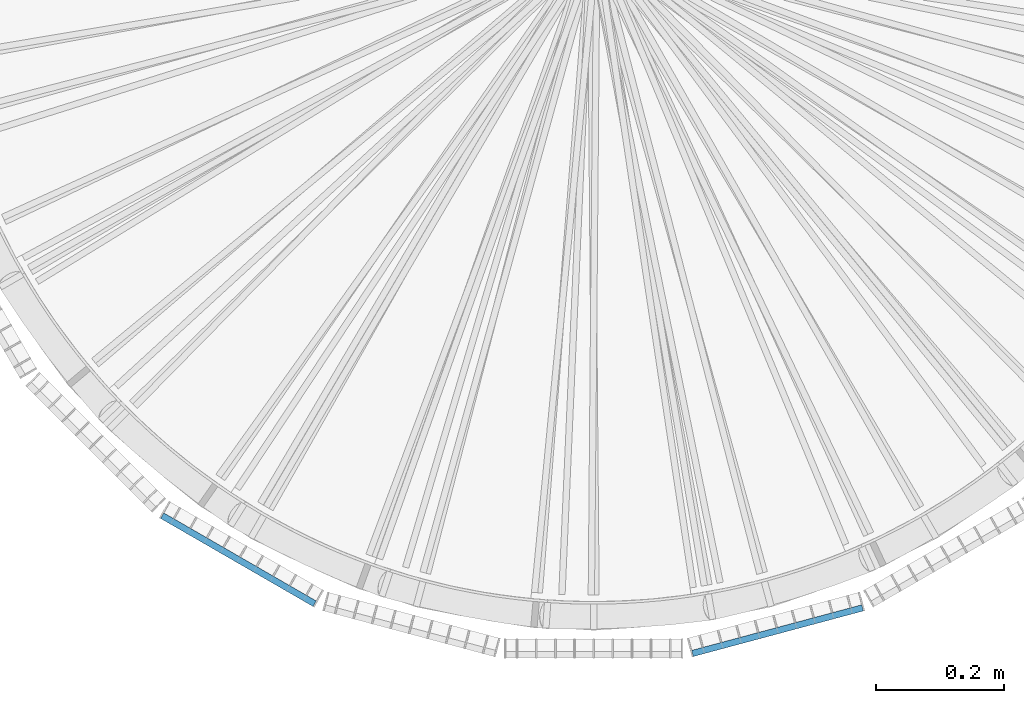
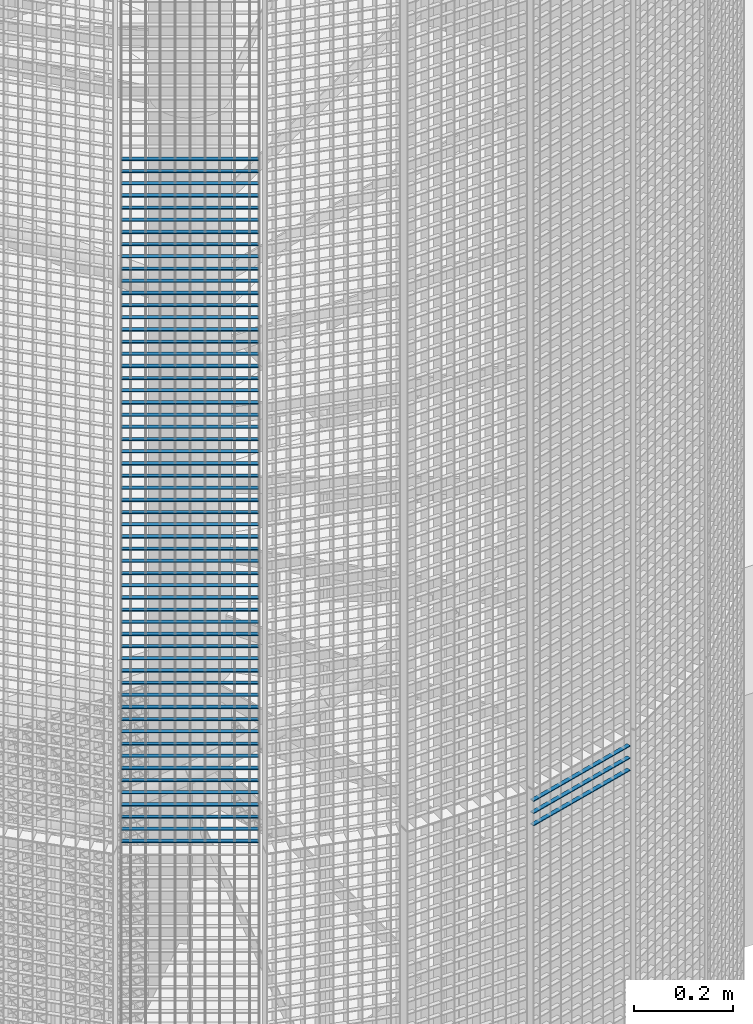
# One storey, part 152 of 1148: 60 beams, 2 elements without a shape of their own.
"""IFC2X3 building model written with IfcOpenShell, lengths in millimetres."""

from ifc_helpers import new_model, si_unit, frame, origin_with_axes, origin_2d_with_axis, place, context, subcontext, project, spatial, rectangle, extrude, material, type_object, element, aggregate, save


model = new_model("IFC2X3")

# Units and contexts
model_context = context("Model", 3, precision=1e-05, world=origin_with_axes())
body_context = subcontext(model_context, "Body", "Model", "MODEL_VIEW")
ifc_project = project(units=[si_unit("LENGTHUNIT", "METRE", prefix="MILLI"), si_unit("AREAUNIT", "SQUARE_METRE"), si_unit("VOLUMEUNIT", "CUBIC_METRE"), si_unit("MASSUNIT", "GRAM", prefix="KILO"), si_unit("TIMEUNIT", "SECOND"), si_unit("PLANEANGLEUNIT", "RADIAN"), si_unit("SOLIDANGLEUNIT", "STERADIAN"), si_unit("THERMODYNAMICTEMPERATUREUNIT", "DEGREE_CELSIUS"), si_unit("LUMINOUSINTENSITYUNIT", "LUMEN")], contexts=[model_context])

# Site, building, storey
site_placement = place(None, origin_with_axes())
site = spatial("IfcSite", under=ifc_project, at=site_placement, Name="Undefined", CompositionType="ELEMENT")
building_placement = place(site_placement, origin_with_axes())
building = spatial("IfcBuilding", under=site, at=building_placement, Name="Undefined", CompositionType="ELEMENT")
storey_placement = place(building_placement, origin_with_axes())
storey = spatial("IfcBuildingStorey", under=building, at=storey_placement, Name="Undefined", CompositionType="ELEMENT", Elevation=0.0)

# Assembly, beams
assembly_1_placement = place(storey_placement, origin_with_axes())
assembly_1 = element("IfcElementAssembly", 1, at=assembly_1_placement, inside=storey, Name="BORDURE", AssemblyPlace="NOTDEFINED", PredefinedType="NOTDEFINED")
ifc_material = material(Name="STEEL/S235JR")
beam_type = type_object("IfcBeamType", Name="PL2*10", PredefinedType="NOTDEFINED")
beam_1_placement = place(assembly_1_placement, frame((-676.248044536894, -895.303964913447, 10710.0), z_axis=(-0.49999999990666, -0.866025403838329, 0.0), x_axis=(0.866025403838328, -0.49999999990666, 0.0)))
beam_1 = element("IfcBeam", 2, at=beam_1_placement, type_object=beam_type, material=ifc_material, Name="ENTRETOISE", context=body_context, shape_type="SweptSolid", body=[
    extrude(rectangle(XDim=2.0, YDim=10.0, at=origin_2d_with_axis()), frame((275.999999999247, 9.09494701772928e-13, 1.53210777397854e-14), z_axis=(-1.0, 0.0, 0.0), x_axis=(0.0, -1.0, 0.0)), (0.0, 0.0, 1.0), 276.0),
])
beam_2_placement = place(assembly_1_placement, frame((-676.248044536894, -895.303964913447, 10680.0), z_axis=(-0.49999999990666, -0.866025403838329, 0.0), x_axis=(0.866025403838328, -0.49999999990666, 0.0)))
beam_2 = element("IfcBeam", 3, at=beam_2_placement, type_object=beam_type, material=ifc_material, Name="ENTRETOISE", context=body_context, shape_type="SweptSolid", body=[
    extrude(rectangle(XDim=2.0, YDim=10.0, at=origin_2d_with_axis()), frame((275.999999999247, 9.09494701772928e-13, 1.53210777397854e-14), z_axis=(-1.0, 0.0, 0.0), x_axis=(0.0, -1.0, 0.0)), (0.0, 0.0, 1.0), 276.0),
])
beam_3_placement = place(assembly_1_placement, frame((-676.248044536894, -895.303964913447, 10650.0), z_axis=(-0.49999999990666, -0.866025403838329, 0.0), x_axis=(0.866025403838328, -0.49999999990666, 0.0)))
beam_3 = element("IfcBeam", 4, at=beam_3_placement, type_object=beam_type, material=ifc_material, Name="ENTRETOISE", context=body_context, shape_type="SweptSolid", body=[
    extrude(rectangle(XDim=2.0, YDim=10.0, at=origin_2d_with_axis()), frame((275.999999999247, 9.09494701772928e-13, 1.53210777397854e-14), z_axis=(-1.0, 0.0, 0.0), x_axis=(0.0, -1.0, 0.0)), (0.0, 0.0, 1.0), 276.0),
])
beam_4_placement = place(assembly_1_placement, frame((-676.248044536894, -895.303964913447, 10620.0), z_axis=(-0.49999999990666, -0.866025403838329, 0.0), x_axis=(0.866025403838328, -0.49999999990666, 0.0)))
beam_4 = element("IfcBeam", 5, at=beam_4_placement, type_object=beam_type, material=ifc_material, Name="ENTRETOISE", context=body_context, shape_type="SweptSolid", body=[
    extrude(rectangle(XDim=2.0, YDim=10.0, at=origin_2d_with_axis()), frame((275.999999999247, 9.09494701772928e-13, 1.53210777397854e-14), z_axis=(-1.0, 0.0, 0.0), x_axis=(0.0, -1.0, 0.0)), (0.0, 0.0, 1.0), 276.0),
])
beam_5_placement = place(assembly_1_placement, frame((-676.248044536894, -895.303964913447, 10590.0), z_axis=(-0.49999999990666, -0.866025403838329, 0.0), x_axis=(0.866025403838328, -0.49999999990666, 0.0)))
beam_5 = element("IfcBeam", 6, at=beam_5_placement, type_object=beam_type, material=ifc_material, Name="ENTRETOISE", context=body_context, shape_type="SweptSolid", body=[
    extrude(rectangle(XDim=2.0, YDim=10.0, at=origin_2d_with_axis()), frame((275.999999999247, 9.09494701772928e-13, 1.53210777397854e-14), z_axis=(-1.0, 0.0, 0.0), x_axis=(0.0, -1.0, 0.0)), (0.0, 0.0, 1.0), 276.0),
])
beam_6_placement = place(assembly_1_placement, frame((-676.248044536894, -895.303964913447, 10560.0), z_axis=(-0.49999999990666, -0.866025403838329, 0.0), x_axis=(0.866025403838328, -0.49999999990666, 0.0)))
beam_6 = element("IfcBeam", 7, at=beam_6_placement, type_object=beam_type, material=ifc_material, Name="ENTRETOISE", context=body_context, shape_type="SweptSolid", body=[
    extrude(rectangle(XDim=2.0, YDim=10.0, at=origin_2d_with_axis()), frame((275.999999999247, 9.09494701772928e-13, 1.53210777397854e-14), z_axis=(-1.0, 0.0, 0.0), x_axis=(0.0, -1.0, 0.0)), (0.0, 0.0, 1.0), 276.0),
])
beam_7_placement = place(assembly_1_placement, frame((-676.248044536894, -895.303964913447, 10530.0), z_axis=(-0.49999999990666, -0.866025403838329, 0.0), x_axis=(0.866025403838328, -0.49999999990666, 0.0)))
beam_7 = element("IfcBeam", 8, at=beam_7_placement, type_object=beam_type, material=ifc_material, Name="ENTRETOISE", context=body_context, shape_type="SweptSolid", body=[
    extrude(rectangle(XDim=2.0, YDim=10.0, at=origin_2d_with_axis()), frame((275.999999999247, 9.09494701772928e-13, 1.53210777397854e-14), z_axis=(-1.0, 0.0, 0.0), x_axis=(0.0, -1.0, 0.0)), (0.0, 0.0, 1.0), 276.0),
])
beam_8_placement = place(assembly_1_placement, frame((-676.248044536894, -895.303964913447, 10500.0), z_axis=(-0.49999999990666, -0.866025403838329, 0.0), x_axis=(0.866025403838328, -0.49999999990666, 0.0)))
beam_8 = element("IfcBeam", 9, at=beam_8_placement, type_object=beam_type, material=ifc_material, Name="ENTRETOISE", context=body_context, shape_type="SweptSolid", body=[
    extrude(rectangle(XDim=2.0, YDim=10.0, at=origin_2d_with_axis()), frame((275.999999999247, 9.09494701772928e-13, 1.53210777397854e-14), z_axis=(-1.0, 0.0, 0.0), x_axis=(0.0, -1.0, 0.0)), (0.0, 0.0, 1.0), 276.0),
])
beam_9_placement = place(assembly_1_placement, frame((-676.248044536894, -895.303964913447, 10470.0), z_axis=(-0.49999999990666, -0.866025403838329, 0.0), x_axis=(0.866025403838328, -0.49999999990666, 0.0)))
beam_9 = element("IfcBeam", 10, at=beam_9_placement, type_object=beam_type, material=ifc_material, Name="ENTRETOISE", context=body_context, shape_type="SweptSolid", body=[
    extrude(rectangle(XDim=2.0, YDim=10.0, at=origin_2d_with_axis()), frame((275.999999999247, 9.09494701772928e-13, 1.53210777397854e-14), z_axis=(-1.0, 0.0, 0.0), x_axis=(0.0, -1.0, 0.0)), (0.0, 0.0, 1.0), 276.0),
])
beam_10_placement = place(assembly_1_placement, frame((-676.248044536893, -895.303964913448, 10440.0), z_axis=(-0.49999999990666, -0.866025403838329, 0.0), x_axis=(0.866025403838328, -0.49999999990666, 0.0)))
beam_10 = element("IfcBeam", 11, at=beam_10_placement, type_object=beam_type, material=ifc_material, Name="ENTRETOISE", context=body_context, shape_type="SweptSolid", body=[
    extrude(rectangle(XDim=2.0, YDim=10.0, at=origin_2d_with_axis()), frame((275.999999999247, 9.09494701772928e-13, 1.53210777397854e-14), z_axis=(-1.0, 0.0, 0.0), x_axis=(0.0, -1.0, 0.0)), (0.0, 0.0, 1.0), 276.0),
])
beam_11_placement = place(assembly_1_placement, frame((-676.248044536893, -895.303964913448, 10410.0), z_axis=(-0.49999999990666, -0.866025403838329, 0.0), x_axis=(0.866025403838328, -0.49999999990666, 0.0)))
beam_11 = element("IfcBeam", 12, at=beam_11_placement, type_object=beam_type, material=ifc_material, Name="ENTRETOISE", context=body_context, shape_type="SweptSolid", body=[
    extrude(rectangle(XDim=2.0, YDim=10.0, at=origin_2d_with_axis()), frame((275.999999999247, 9.09494701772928e-13, 1.53210777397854e-14), z_axis=(-1.0, 0.0, 0.0), x_axis=(0.0, -1.0, 0.0)), (0.0, 0.0, 1.0), 276.0),
])
beam_12_placement = place(assembly_1_placement, frame((-676.248044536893, -895.303964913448, 10380.0), z_axis=(-0.49999999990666, -0.866025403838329, 0.0), x_axis=(0.866025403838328, -0.49999999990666, 0.0)))
beam_12 = element("IfcBeam", 13, at=beam_12_placement, type_object=beam_type, material=ifc_material, Name="ENTRETOISE", context=body_context, shape_type="SweptSolid", body=[
    extrude(rectangle(XDim=2.0, YDim=10.0, at=origin_2d_with_axis()), frame((275.999999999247, 9.09494701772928e-13, 1.53210777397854e-14), z_axis=(-1.0, 0.0, 0.0), x_axis=(0.0, -1.0, 0.0)), (0.0, 0.0, 1.0), 276.0),
])
beam_13_placement = place(assembly_1_placement, frame((-676.248044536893, -895.303964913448, 10350.0), z_axis=(-0.49999999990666, -0.866025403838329, 0.0), x_axis=(0.866025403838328, -0.49999999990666, 0.0)))
beam_13 = element("IfcBeam", 14, at=beam_13_placement, type_object=beam_type, material=ifc_material, Name="ENTRETOISE", context=body_context, shape_type="SweptSolid", body=[
    extrude(rectangle(XDim=2.0, YDim=10.0, at=origin_2d_with_axis()), frame((275.999999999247, 9.09494701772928e-13, 1.53210777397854e-14), z_axis=(-1.0, 0.0, 0.0), x_axis=(0.0, -1.0, 0.0)), (0.0, 0.0, 1.0), 276.0),
])
beam_14_placement = place(assembly_1_placement, frame((-676.248044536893, -895.303964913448, 10320.0), z_axis=(-0.49999999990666, -0.866025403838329, 0.0), x_axis=(0.866025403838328, -0.49999999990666, 0.0)))
beam_14 = element("IfcBeam", 15, at=beam_14_placement, type_object=beam_type, material=ifc_material, Name="ENTRETOISE", context=body_context, shape_type="SweptSolid", body=[
    extrude(rectangle(XDim=2.0, YDim=10.0, at=origin_2d_with_axis()), frame((275.999999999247, 9.09494701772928e-13, 1.53210777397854e-14), z_axis=(-1.0, 0.0, 0.0), x_axis=(0.0, -1.0, 0.0)), (0.0, 0.0, 1.0), 276.0),
])
beam_15_placement = place(assembly_1_placement, frame((-676.248044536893, -895.303964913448, 10290.0), z_axis=(-0.49999999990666, -0.866025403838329, 0.0), x_axis=(0.866025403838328, -0.49999999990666, 0.0)))
beam_15 = element("IfcBeam", 16, at=beam_15_placement, type_object=beam_type, material=ifc_material, Name="ENTRETOISE", context=body_context, shape_type="SweptSolid", body=[
    extrude(rectangle(XDim=2.0, YDim=10.0, at=origin_2d_with_axis()), frame((275.999999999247, 9.09494701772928e-13, 1.53210777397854e-14), z_axis=(-1.0, 0.0, 0.0), x_axis=(0.0, -1.0, 0.0)), (0.0, 0.0, 1.0), 276.0),
])
beam_16_placement = place(assembly_1_placement, frame((-676.248044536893, -895.303964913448, 10260.0), z_axis=(-0.49999999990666, -0.866025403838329, 0.0), x_axis=(0.866025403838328, -0.49999999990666, 0.0)))
beam_16 = element("IfcBeam", 17, at=beam_16_placement, type_object=beam_type, material=ifc_material, Name="ENTRETOISE", context=body_context, shape_type="SweptSolid", body=[
    extrude(rectangle(XDim=2.0, YDim=10.0, at=origin_2d_with_axis()), frame((275.999999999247, 9.09494701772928e-13, 1.53210777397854e-14), z_axis=(-1.0, 0.0, 0.0), x_axis=(0.0, -1.0, 0.0)), (0.0, 0.0, 1.0), 276.0),
])
beam_17_placement = place(assembly_1_placement, frame((-676.248044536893, -895.303964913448, 10230.0), z_axis=(-0.49999999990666, -0.866025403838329, 0.0), x_axis=(0.866025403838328, -0.49999999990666, 0.0)))
beam_17 = element("IfcBeam", 18, at=beam_17_placement, type_object=beam_type, material=ifc_material, Name="ENTRETOISE", context=body_context, shape_type="SweptSolid", body=[
    extrude(rectangle(XDim=2.0, YDim=10.0, at=origin_2d_with_axis()), frame((275.999999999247, 9.09494701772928e-13, 1.53210777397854e-14), z_axis=(-1.0, 0.0, 0.0), x_axis=(0.0, -1.0, 0.0)), (0.0, 0.0, 1.0), 276.0),
])
beam_18_placement = place(assembly_1_placement, frame((-676.248044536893, -895.303964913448, 10200.0), z_axis=(-0.49999999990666, -0.866025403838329, 0.0), x_axis=(0.866025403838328, -0.49999999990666, 0.0)))
beam_18 = element("IfcBeam", 19, at=beam_18_placement, type_object=beam_type, material=ifc_material, Name="ENTRETOISE", context=body_context, shape_type="SweptSolid", body=[
    extrude(rectangle(XDim=2.0, YDim=10.0, at=origin_2d_with_axis()), frame((275.999999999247, 9.09494701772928e-13, 1.53210777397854e-14), z_axis=(-1.0, 0.0, 0.0), x_axis=(0.0, -1.0, 0.0)), (0.0, 0.0, 1.0), 276.0),
])
beam_19_placement = place(assembly_1_placement, frame((-676.248044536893, -895.303964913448, 10170.0), z_axis=(-0.49999999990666, -0.866025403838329, 0.0), x_axis=(0.866025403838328, -0.49999999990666, 0.0)))
beam_19 = element("IfcBeam", 20, at=beam_19_placement, type_object=beam_type, material=ifc_material, Name="ENTRETOISE", context=body_context, shape_type="SweptSolid", body=[
    extrude(rectangle(XDim=2.0, YDim=10.0, at=origin_2d_with_axis()), frame((275.999999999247, 9.09494701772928e-13, 1.53210777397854e-14), z_axis=(-1.0, 0.0, 0.0), x_axis=(0.0, -1.0, 0.0)), (0.0, 0.0, 1.0), 276.0),
])
beam_20_placement = place(assembly_1_placement, frame((-676.248044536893, -895.303964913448, 10140.0), z_axis=(-0.49999999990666, -0.866025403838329, 0.0), x_axis=(0.866025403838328, -0.49999999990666, 0.0)))
beam_20 = element("IfcBeam", 21, at=beam_20_placement, type_object=beam_type, material=ifc_material, Name="ENTRETOISE", context=body_context, shape_type="SweptSolid", body=[
    extrude(rectangle(XDim=2.0, YDim=10.0, at=origin_2d_with_axis()), frame((275.999999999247, 9.09494701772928e-13, 1.53210777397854e-14), z_axis=(-1.0, 0.0, 0.0), x_axis=(0.0, -1.0, 0.0)), (0.0, 0.0, 1.0), 276.0),
])
beam_21_placement = place(assembly_1_placement, frame((-676.248044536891, -895.303964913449, 9720.0), z_axis=(-0.49999999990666, -0.866025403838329, 0.0), x_axis=(0.866025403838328, -0.49999999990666, 0.0)))
beam_21 = element("IfcBeam", 22, at=beam_21_placement, type_object=beam_type, material=ifc_material, Name="ENTRETOISE", context=body_context, shape_type="SweptSolid", body=[
    extrude(rectangle(XDim=2.0, YDim=10.0, at=origin_2d_with_axis()), frame((275.999999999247, 9.09494701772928e-13, 1.53210777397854e-14), z_axis=(-1.0, 0.0, 0.0), x_axis=(0.0, -1.0, 0.0)), (0.0, 0.0, 1.0), 276.0),
])
beam_22_placement = place(assembly_1_placement, frame((-676.248044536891, -895.303964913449, 9690.0), z_axis=(-0.49999999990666, -0.866025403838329, 0.0), x_axis=(0.866025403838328, -0.49999999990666, 0.0)))
beam_22 = element("IfcBeam", 23, at=beam_22_placement, type_object=beam_type, material=ifc_material, Name="ENTRETOISE", context=body_context, shape_type="SweptSolid", body=[
    extrude(rectangle(XDim=2.0, YDim=10.0, at=origin_2d_with_axis()), frame((275.999999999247, 9.09494701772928e-13, 1.53210777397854e-14), z_axis=(-1.0, 0.0, 0.0), x_axis=(0.0, -1.0, 0.0)), (0.0, 0.0, 1.0), 276.0),
])
beam_23_placement = place(assembly_1_placement, frame((-676.248044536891, -895.303964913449, 9750.0), z_axis=(-0.49999999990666, -0.866025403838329, 0.0), x_axis=(0.866025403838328, -0.49999999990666, 0.0)))
beam_23 = element("IfcBeam", 24, at=beam_23_placement, type_object=beam_type, material=ifc_material, Name="ENTRETOISE", context=body_context, shape_type="SweptSolid", body=[
    extrude(rectangle(XDim=2.0, YDim=10.0, at=origin_2d_with_axis()), frame((275.999999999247, 9.09494701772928e-13, 1.53210777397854e-14), z_axis=(-1.0, 0.0, 0.0), x_axis=(0.0, -1.0, 0.0)), (0.0, 0.0, 1.0), 276.0),
])
beam_24_placement = place(assembly_1_placement, frame((-676.248044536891, -895.303964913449, 9660.0), z_axis=(-0.49999999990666, -0.866025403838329, 0.0), x_axis=(0.866025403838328, -0.49999999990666, 0.0)))
beam_24 = element("IfcBeam", 25, at=beam_24_placement, type_object=beam_type, material=ifc_material, Name="ENTRETOISE", context=body_context, shape_type="SweptSolid", body=[
    extrude(rectangle(XDim=2.0, YDim=10.0, at=origin_2d_with_axis()), frame((275.999999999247, 9.09494701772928e-13, 1.53210777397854e-14), z_axis=(-1.0, 0.0, 0.0), x_axis=(0.0, -1.0, 0.0)), (0.0, 0.0, 1.0), 276.0),
])
beam_25_placement = place(assembly_1_placement, frame((-676.248044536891, -895.303964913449, 9630.0), z_axis=(-0.49999999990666, -0.866025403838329, 0.0), x_axis=(0.866025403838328, -0.49999999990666, 0.0)))
beam_25 = element("IfcBeam", 26, at=beam_25_placement, type_object=beam_type, material=ifc_material, Name="ENTRETOISE", context=body_context, shape_type="SweptSolid", body=[
    extrude(rectangle(XDim=2.0, YDim=10.0, at=origin_2d_with_axis()), frame((275.999999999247, 9.09494701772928e-13, 1.53210777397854e-14), z_axis=(-1.0, 0.0, 0.0), x_axis=(0.0, -1.0, 0.0)), (0.0, 0.0, 1.0), 276.0),
])
beam_26_placement = place(assembly_1_placement, frame((-676.248044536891, -895.303964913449, 9780.0), z_axis=(-0.49999999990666, -0.866025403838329, 0.0), x_axis=(0.866025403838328, -0.49999999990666, 0.0)))
beam_26 = element("IfcBeam", 27, at=beam_26_placement, type_object=beam_type, material=ifc_material, Name="ENTRETOISE", context=body_context, shape_type="SweptSolid", body=[
    extrude(rectangle(XDim=2.0, YDim=10.0, at=origin_2d_with_axis()), frame((275.999999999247, 9.09494701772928e-13, 1.53210777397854e-14), z_axis=(-1.0, 0.0, 0.0), x_axis=(0.0, -1.0, 0.0)), (0.0, 0.0, 1.0), 276.0),
])
beam_27_placement = place(assembly_1_placement, frame((-676.248044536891, -895.30396491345, 9600.0), z_axis=(-0.49999999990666, -0.866025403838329, 0.0), x_axis=(0.866025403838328, -0.49999999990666, 0.0)))
beam_27 = element("IfcBeam", 28, at=beam_27_placement, type_object=beam_type, material=ifc_material, Name="ENTRETOISE", context=body_context, shape_type="SweptSolid", body=[
    extrude(rectangle(XDim=2.0, YDim=10.0, at=origin_2d_with_axis()), frame((275.999999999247, 9.09494701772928e-13, 1.53210777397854e-14), z_axis=(-1.0, 0.0, 0.0), x_axis=(0.0, -1.0, 0.0)), (0.0, 0.0, 1.0), 276.0),
])
beam_28_placement = place(assembly_1_placement, frame((-676.248044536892, -895.303964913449, 9810.0), z_axis=(-0.49999999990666, -0.866025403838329, 0.0), x_axis=(0.866025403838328, -0.49999999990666, 0.0)))
beam_28 = element("IfcBeam", 29, at=beam_28_placement, type_object=beam_type, material=ifc_material, Name="ENTRETOISE", context=body_context, shape_type="SweptSolid", body=[
    extrude(rectangle(XDim=2.0, YDim=10.0, at=origin_2d_with_axis()), frame((275.999999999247, 9.09494701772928e-13, 1.53210777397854e-14), z_axis=(-1.0, 0.0, 0.0), x_axis=(0.0, -1.0, 0.0)), (0.0, 0.0, 1.0), 276.0),
])
beam_29_placement = place(assembly_1_placement, frame((-676.248044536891, -895.30396491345, 9570.0), z_axis=(-0.49999999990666, -0.866025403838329, 0.0), x_axis=(0.866025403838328, -0.49999999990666, 0.0)))
beam_29 = element("IfcBeam", 30, at=beam_29_placement, type_object=beam_type, material=ifc_material, Name="ENTRETOISE", context=body_context, shape_type="SweptSolid", body=[
    extrude(rectangle(XDim=2.0, YDim=10.0, at=origin_2d_with_axis()), frame((275.999999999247, 9.09494701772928e-13, 1.53210777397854e-14), z_axis=(-1.0, 0.0, 0.0), x_axis=(0.0, -1.0, 0.0)), (0.0, 0.0, 1.0), 276.0),
])
beam_30_placement = place(assembly_1_placement, frame((-676.248044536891, -895.30396491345, 9540.0), z_axis=(-0.49999999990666, -0.866025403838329, 0.0), x_axis=(0.866025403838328, -0.49999999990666, 0.0)))
beam_30 = element("IfcBeam", 31, at=beam_30_placement, type_object=beam_type, material=ifc_material, Name="ENTRETOISE", context=body_context, shape_type="SweptSolid", body=[
    extrude(rectangle(XDim=2.0, YDim=10.0, at=origin_2d_with_axis()), frame((275.999999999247, 9.09494701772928e-13, 1.53210777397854e-14), z_axis=(-1.0, 0.0, 0.0), x_axis=(0.0, -1.0, 0.0)), (0.0, 0.0, 1.0), 276.0),
])
beam_31_placement = place(assembly_1_placement, frame((-676.248044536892, -895.303964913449, 9840.0), z_axis=(-0.49999999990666, -0.866025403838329, 0.0), x_axis=(0.866025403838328, -0.49999999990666, 0.0)))
beam_31 = element("IfcBeam", 32, at=beam_31_placement, type_object=beam_type, material=ifc_material, Name="ENTRETOISE", context=body_context, shape_type="SweptSolid", body=[
    extrude(rectangle(XDim=2.0, YDim=10.0, at=origin_2d_with_axis()), frame((275.999999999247, 9.09494701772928e-13, 1.53210777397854e-14), z_axis=(-1.0, 0.0, 0.0), x_axis=(0.0, -1.0, 0.0)), (0.0, 0.0, 1.0), 276.0),
])
beam_32_placement = place(assembly_1_placement, frame((-676.248044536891, -895.303964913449, 9510.0), z_axis=(-0.49999999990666, -0.866025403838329, 0.0), x_axis=(0.866025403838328, -0.49999999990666, 0.0)))
beam_32 = element("IfcBeam", 33, at=beam_32_placement, type_object=beam_type, material=ifc_material, Name="ENTRETOISE", context=body_context, shape_type="SweptSolid", body=[
    extrude(rectangle(XDim=2.0, YDim=10.0, at=origin_2d_with_axis()), frame((275.999999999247, 9.09494701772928e-13, 1.53210777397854e-14), z_axis=(-1.0, 0.0, 0.0), x_axis=(0.0, -1.0, 0.0)), (0.0, 0.0, 1.0), 276.0),
])
beam_33_placement = place(assembly_1_placement, frame((-676.248044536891, -895.303964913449, 9480.0), z_axis=(-0.49999999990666, -0.866025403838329, 0.0), x_axis=(0.866025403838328, -0.49999999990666, 0.0)))
beam_33 = element("IfcBeam", 34, at=beam_33_placement, type_object=beam_type, material=ifc_material, Name="ENTRETOISE", context=body_context, shape_type="SweptSolid", body=[
    extrude(rectangle(XDim=2.0, YDim=10.0, at=origin_2d_with_axis()), frame((275.999999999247, 9.09494701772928e-13, 1.53210777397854e-14), z_axis=(-1.0, 0.0, 0.0), x_axis=(0.0, -1.0, 0.0)), (0.0, 0.0, 1.0), 276.0),
])
beam_34_placement = place(assembly_1_placement, frame((-676.248044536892, -895.303964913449, 9870.0), z_axis=(-0.49999999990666, -0.866025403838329, 0.0), x_axis=(0.866025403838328, -0.49999999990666, 0.0)))
beam_34 = element("IfcBeam", 35, at=beam_34_placement, type_object=beam_type, material=ifc_material, Name="ENTRETOISE", context=body_context, shape_type="SweptSolid", body=[
    extrude(rectangle(XDim=2.0, YDim=10.0, at=origin_2d_with_axis()), frame((275.999999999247, 9.09494701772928e-13, 1.53210777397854e-14), z_axis=(-1.0, 0.0, 0.0), x_axis=(0.0, -1.0, 0.0)), (0.0, 0.0, 1.0), 276.0),
])
beam_35_placement = place(assembly_1_placement, frame((-676.248044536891, -895.30396491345, 9450.0), z_axis=(-0.49999999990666, -0.866025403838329, 0.0), x_axis=(0.866025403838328, -0.49999999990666, 0.0)))
beam_35 = element("IfcBeam", 36, at=beam_35_placement, type_object=beam_type, material=ifc_material, Name="ENTRETOISE", context=body_context, shape_type="SweptSolid", body=[
    extrude(rectangle(XDim=2.0, YDim=10.0, at=origin_2d_with_axis()), frame((275.999999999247, 9.09494701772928e-13, 1.53210777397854e-14), z_axis=(-1.0, 0.0, 0.0), x_axis=(0.0, -1.0, 0.0)), (0.0, 0.0, 1.0), 276.0),
])
beam_36_placement = place(assembly_1_placement, frame((-676.24804453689, -895.30396491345, 9420.0), z_axis=(-0.49999999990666, -0.866025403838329, 0.0), x_axis=(0.866025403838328, -0.49999999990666, 0.0)))
beam_36 = element("IfcBeam", 37, at=beam_36_placement, type_object=beam_type, material=ifc_material, Name="ENTRETOISE", context=body_context, shape_type="SweptSolid", body=[
    extrude(rectangle(XDim=2.0, YDim=10.0, at=origin_2d_with_axis()), frame((275.999999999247, 9.09494701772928e-13, 1.53210777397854e-14), z_axis=(-1.0, 0.0, 0.0), x_axis=(0.0, -1.0, 0.0)), (0.0, 0.0, 1.0), 276.0),
])
beam_37_placement = place(assembly_1_placement, frame((-676.248044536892, -895.303964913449, 9900.0), z_axis=(-0.49999999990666, -0.866025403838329, 0.0), x_axis=(0.866025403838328, -0.49999999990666, 0.0)))
beam_37 = element("IfcBeam", 38, at=beam_37_placement, type_object=beam_type, material=ifc_material, Name="ENTRETOISE", context=body_context, shape_type="SweptSolid", body=[
    extrude(rectangle(XDim=2.0, YDim=10.0, at=origin_2d_with_axis()), frame((275.999999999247, 9.09494701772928e-13, 1.53210777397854e-14), z_axis=(-1.0, 0.0, 0.0), x_axis=(0.0, -1.0, 0.0)), (0.0, 0.0, 1.0), 276.0),
])
beam_38_placement = place(assembly_1_placement, frame((-676.24804453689, -895.30396491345, 9390.0), z_axis=(-0.49999999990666, -0.866025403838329, 0.0), x_axis=(0.866025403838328, -0.49999999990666, 0.0)))
beam_38 = element("IfcBeam", 39, at=beam_38_placement, type_object=beam_type, material=ifc_material, Name="ENTRETOISE", context=body_context, shape_type="SweptSolid", body=[
    extrude(rectangle(XDim=2.0, YDim=10.0, at=origin_2d_with_axis()), frame((275.999999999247, 9.09494701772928e-13, 1.53210777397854e-14), z_axis=(-1.0, 0.0, 0.0), x_axis=(0.0, -1.0, 0.0)), (0.0, 0.0, 1.0), 276.0),
])
beam_39_placement = place(assembly_1_placement, frame((-676.248044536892, -895.303964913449, 9930.0), z_axis=(-0.49999999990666, -0.866025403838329, 0.0), x_axis=(0.866025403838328, -0.49999999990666, 0.0)))
beam_39 = element("IfcBeam", 40, at=beam_39_placement, type_object=beam_type, material=ifc_material, Name="ENTRETOISE", context=body_context, shape_type="SweptSolid", body=[
    extrude(rectangle(XDim=2.0, YDim=10.0, at=origin_2d_with_axis()), frame((275.999999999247, 9.09494701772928e-13, 1.53210777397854e-14), z_axis=(-1.0, 0.0, 0.0), x_axis=(0.0, -1.0, 0.0)), (0.0, 0.0, 1.0), 276.0),
])
beam_40_placement = place(assembly_1_placement, frame((-676.24804453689, -895.30396491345, 9360.0), z_axis=(-0.49999999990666, -0.866025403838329, 0.0), x_axis=(0.866025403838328, -0.49999999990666, 0.0)))
beam_40 = element("IfcBeam", 41, at=beam_40_placement, type_object=beam_type, material=ifc_material, Name="ENTRETOISE", context=body_context, shape_type="SweptSolid", body=[
    extrude(rectangle(XDim=2.0, YDim=10.0, at=origin_2d_with_axis()), frame((275.999999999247, 9.09494701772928e-13, 1.53210777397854e-14), z_axis=(-1.0, 0.0, 0.0), x_axis=(0.0, -1.0, 0.0)), (0.0, 0.0, 1.0), 276.0),
])
beam_41_placement = place(assembly_1_placement, frame((-676.24804453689, -895.30396491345, 9330.0), z_axis=(-0.49999999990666, -0.866025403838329, 0.0), x_axis=(0.866025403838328, -0.49999999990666, 0.0)))
beam_41 = element("IfcBeam", 42, at=beam_41_placement, type_object=beam_type, material=ifc_material, Name="ENTRETOISE", context=body_context, shape_type="SweptSolid", body=[
    extrude(rectangle(XDim=2.0, YDim=10.0, at=origin_2d_with_axis()), frame((275.999999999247, 9.09494701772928e-13, 1.53210777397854e-14), z_axis=(-1.0, 0.0, 0.0), x_axis=(0.0, -1.0, 0.0)), (0.0, 0.0, 1.0), 276.0),
])
beam_42_placement = place(assembly_1_placement, frame((-676.248044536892, -895.303964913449, 9960.0), z_axis=(-0.49999999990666, -0.866025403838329, 0.0), x_axis=(0.866025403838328, -0.49999999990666, 0.0)))
beam_42 = element("IfcBeam", 43, at=beam_42_placement, type_object=beam_type, material=ifc_material, Name="ENTRETOISE", context=body_context, shape_type="SweptSolid", body=[
    extrude(rectangle(XDim=2.0, YDim=10.0, at=origin_2d_with_axis()), frame((275.999999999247, 9.09494701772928e-13, 1.53210777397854e-14), z_axis=(-1.0, 0.0, 0.0), x_axis=(0.0, -1.0, 0.0)), (0.0, 0.0, 1.0), 276.0),
])
beam_43_placement = place(assembly_1_placement, frame((-676.24804453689, -895.30396491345, 9300.0), z_axis=(-0.49999999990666, -0.866025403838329, 0.0), x_axis=(0.866025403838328, -0.49999999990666, 0.0)))
beam_43 = element("IfcBeam", 44, at=beam_43_placement, type_object=beam_type, material=ifc_material, Name="ENTRETOISE", context=body_context, shape_type="SweptSolid", body=[
    extrude(rectangle(XDim=2.0, YDim=10.0, at=origin_2d_with_axis()), frame((275.999999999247, 9.09494701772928e-13, 1.53210777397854e-14), z_axis=(-1.0, 0.0, 0.0), x_axis=(0.0, -1.0, 0.0)), (0.0, 0.0, 1.0), 276.0),
])
beam_44_placement = place(assembly_1_placement, frame((-676.24804453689, -895.30396491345, 9270.0), z_axis=(-0.49999999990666, -0.866025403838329, 0.0), x_axis=(0.866025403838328, -0.49999999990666, 0.0)))
beam_44 = element("IfcBeam", 45, at=beam_44_placement, type_object=beam_type, material=ifc_material, Name="ENTRETOISE", context=body_context, shape_type="SweptSolid", body=[
    extrude(rectangle(XDim=2.0, YDim=10.0, at=origin_2d_with_axis()), frame((275.999999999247, 9.09494701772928e-13, 1.53210777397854e-14), z_axis=(-1.0, 0.0, 0.0), x_axis=(0.0, -1.0, 0.0)), (0.0, 0.0, 1.0), 276.0),
])
beam_45_placement = place(assembly_1_placement, frame((-676.248044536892, -895.303964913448, 9990.0), z_axis=(-0.49999999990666, -0.866025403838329, 0.0), x_axis=(0.866025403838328, -0.49999999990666, 0.0)))
beam_45 = element("IfcBeam", 46, at=beam_45_placement, type_object=beam_type, material=ifc_material, Name="ENTRETOISE", context=body_context, shape_type="SweptSolid", body=[
    extrude(rectangle(XDim=2.0, YDim=10.0, at=origin_2d_with_axis()), frame((275.999999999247, 9.09494701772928e-13, 1.53210777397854e-14), z_axis=(-1.0, 0.0, 0.0), x_axis=(0.0, -1.0, 0.0)), (0.0, 0.0, 1.0), 276.0),
])
beam_46_placement = place(assembly_1_placement, frame((-676.24804453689, -895.30396491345, 9240.0), z_axis=(-0.49999999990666, -0.866025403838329, 0.0), x_axis=(0.866025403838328, -0.49999999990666, 0.0)))
beam_46 = element("IfcBeam", 47, at=beam_46_placement, type_object=beam_type, material=ifc_material, Name="ENTRETOISE", context=body_context, shape_type="SweptSolid", body=[
    extrude(rectangle(XDim=2.0, YDim=10.0, at=origin_2d_with_axis()), frame((275.999999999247, 9.09494701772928e-13, 1.53210777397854e-14), z_axis=(-1.0, 0.0, 0.0), x_axis=(0.0, -1.0, 0.0)), (0.0, 0.0, 1.0), 276.0),
])
beam_47_placement = place(assembly_1_placement, frame((-676.248044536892, -895.303964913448, 10020.0), z_axis=(-0.49999999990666, -0.866025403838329, 0.0), x_axis=(0.866025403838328, -0.49999999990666, 0.0)))
beam_47 = element("IfcBeam", 48, at=beam_47_placement, type_object=beam_type, material=ifc_material, Name="ENTRETOISE", context=body_context, shape_type="SweptSolid", body=[
    extrude(rectangle(XDim=2.0, YDim=10.0, at=origin_2d_with_axis()), frame((275.999999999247, 9.09494701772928e-13, 1.53210777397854e-14), z_axis=(-1.0, 0.0, 0.0), x_axis=(0.0, -1.0, 0.0)), (0.0, 0.0, 1.0), 276.0),
])
beam_48_placement = place(assembly_1_placement, frame((-676.24804453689, -895.30396491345, 9210.0), z_axis=(-0.49999999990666, -0.866025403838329, 0.0), x_axis=(0.866025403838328, -0.49999999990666, 0.0)))
beam_48 = element("IfcBeam", 49, at=beam_48_placement, type_object=beam_type, material=ifc_material, Name="ENTRETOISE", context=body_context, shape_type="SweptSolid", body=[
    extrude(rectangle(XDim=2.0, YDim=10.0, at=origin_2d_with_axis()), frame((275.999999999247, 9.09494701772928e-13, 1.53210777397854e-14), z_axis=(-1.0, 0.0, 0.0), x_axis=(0.0, -1.0, 0.0)), (0.0, 0.0, 1.0), 276.0),
])
beam_49_placement = place(assembly_1_placement, frame((-676.24804453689, -895.30396491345, 9180.0), z_axis=(-0.49999999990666, -0.866025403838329, 0.0), x_axis=(0.866025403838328, -0.49999999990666, 0.0)))
beam_49 = element("IfcBeam", 50, at=beam_49_placement, type_object=beam_type, material=ifc_material, Name="ENTRETOISE", context=body_context, shape_type="SweptSolid", body=[
    extrude(rectangle(XDim=2.0, YDim=10.0, at=origin_2d_with_axis()), frame((275.999999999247, 9.09494701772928e-13, 1.53210777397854e-14), z_axis=(-1.0, 0.0, 0.0), x_axis=(0.0, -1.0, 0.0)), (0.0, 0.0, 1.0), 276.0),
])
beam_50_placement = place(assembly_1_placement, frame((-676.248044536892, -895.303964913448, 10050.0), z_axis=(-0.49999999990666, -0.866025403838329, 0.0), x_axis=(0.866025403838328, -0.49999999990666, 0.0)))
beam_50 = element("IfcBeam", 51, at=beam_50_placement, type_object=beam_type, material=ifc_material, Name="ENTRETOISE", context=body_context, shape_type="SweptSolid", body=[
    extrude(rectangle(XDim=2.0, YDim=10.0, at=origin_2d_with_axis()), frame((275.999999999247, 9.09494701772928e-13, 1.53210777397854e-14), z_axis=(-1.0, 0.0, 0.0), x_axis=(0.0, -1.0, 0.0)), (0.0, 0.0, 1.0), 276.0),
])
beam_51_placement = place(assembly_1_placement, frame((-676.24804453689, -895.30396491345, 9150.0), z_axis=(-0.49999999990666, -0.866025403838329, 0.0), x_axis=(0.866025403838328, -0.49999999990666, 0.0)))
beam_51 = element("IfcBeam", 52, at=beam_51_placement, type_object=beam_type, material=ifc_material, Name="ENTRETOISE", context=body_context, shape_type="SweptSolid", body=[
    extrude(rectangle(XDim=2.0, YDim=10.0, at=origin_2d_with_axis()), frame((275.999999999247, 9.09494701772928e-13, 1.53210777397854e-14), z_axis=(-1.0, 0.0, 0.0), x_axis=(0.0, -1.0, 0.0)), (0.0, 0.0, 1.0), 276.0),
])
beam_52_placement = place(assembly_1_placement, frame((-676.248044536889, -895.30396491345, 9120.0), z_axis=(-0.49999999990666, -0.866025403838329, 0.0), x_axis=(0.866025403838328, -0.49999999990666, 0.0)))
beam_52 = element("IfcBeam", 53, at=beam_52_placement, type_object=beam_type, material=ifc_material, Name="ENTRETOISE", context=body_context, shape_type="SweptSolid", body=[
    extrude(rectangle(XDim=2.0, YDim=10.0, at=origin_2d_with_axis()), frame((275.999999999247, 9.09494701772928e-13, 1.53210777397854e-14), z_axis=(-1.0, 0.0, 0.0), x_axis=(0.0, -1.0, 0.0)), (0.0, 0.0, 1.0), 276.0),
])
beam_53_placement = place(assembly_1_placement, frame((-676.248044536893, -895.303964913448, 10080.0), z_axis=(-0.49999999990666, -0.866025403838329, 0.0), x_axis=(0.866025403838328, -0.49999999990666, 0.0)))
beam_53 = element("IfcBeam", 54, at=beam_53_placement, type_object=beam_type, material=ifc_material, Name="ENTRETOISE", context=body_context, shape_type="SweptSolid", body=[
    extrude(rectangle(XDim=2.0, YDim=10.0, at=origin_2d_with_axis()), frame((275.999999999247, 9.09494701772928e-13, 1.53210777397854e-14), z_axis=(-1.0, 0.0, 0.0), x_axis=(0.0, -1.0, 0.0)), (0.0, 0.0, 1.0), 276.0),
])
beam_54_placement = place(assembly_1_placement, frame((-676.248044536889, -895.30396491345, 9090.0), z_axis=(-0.49999999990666, -0.866025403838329, 0.0), x_axis=(0.866025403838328, -0.49999999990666, 0.0)))
beam_54 = element("IfcBeam", 55, at=beam_54_placement, type_object=beam_type, material=ifc_material, Name="ENTRETOISE", context=body_context, shape_type="SweptSolid", body=[
    extrude(rectangle(XDim=2.0, YDim=10.0, at=origin_2d_with_axis()), frame((275.999999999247, 9.09494701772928e-13, 1.53210777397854e-14), z_axis=(-1.0, 0.0, 0.0), x_axis=(0.0, -1.0, 0.0)), (0.0, 0.0, 1.0), 276.0),
])
beam_55_placement = place(assembly_1_placement, frame((-676.248044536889, -895.30396491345, 9060.0), z_axis=(-0.49999999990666, -0.866025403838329, 0.0), x_axis=(0.866025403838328, -0.49999999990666, 0.0)))
beam_55 = element("IfcBeam", 56, at=beam_55_placement, type_object=beam_type, material=ifc_material, Name="ENTRETOISE", context=body_context, shape_type="SweptSolid", body=[
    extrude(rectangle(XDim=2.0, YDim=10.0, at=origin_2d_with_axis()), frame((275.999999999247, 9.09494701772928e-13, 1.53210777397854e-14), z_axis=(-1.0, 0.0, 0.0), x_axis=(0.0, -1.0, 0.0)), (0.0, 0.0, 1.0), 276.0),
])
beam_56_placement = place(assembly_1_placement, frame((-676.248044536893, -895.303964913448, 10110.0), z_axis=(-0.49999999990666, -0.866025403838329, 0.0), x_axis=(0.866025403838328, -0.49999999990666, 0.0)))
beam_56 = element("IfcBeam", 57, at=beam_56_placement, type_object=beam_type, material=ifc_material, Name="ENTRETOISE", context=body_context, shape_type="SweptSolid", body=[
    extrude(rectangle(XDim=2.0, YDim=10.0, at=origin_2d_with_axis()), frame((275.999999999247, 9.09494701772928e-13, 1.53210777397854e-14), z_axis=(-1.0, 0.0, 0.0), x_axis=(0.0, -1.0, 0.0)), (0.0, 0.0, 1.0), 276.0),
])
beam_57_placement = place(assembly_1_placement, frame((-676.248044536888, -895.30396491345, 9030.0), z_axis=(-0.49999999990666, -0.866025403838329, 0.0), x_axis=(0.866025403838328, -0.49999999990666, 0.0)))
beam_57 = element("IfcBeam", 58, at=beam_57_placement, type_object=beam_type, material=ifc_material, Name="ENTRETOISE", context=body_context, shape_type="SweptSolid", body=[
    extrude(rectangle(XDim=2.0, YDim=10.0, at=origin_2d_with_axis()), frame((275.999999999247, 9.09494701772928e-13, 1.53210777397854e-14), z_axis=(-1.0, 0.0, 0.0), x_axis=(0.0, -1.0, 0.0)), (0.0, 0.0, 1.0), 276.0),
])
aggregate(assembly_1, [beam_1, beam_2, beam_3, beam_4, beam_5, beam_6, beam_7, beam_8, beam_9, beam_10, beam_11, beam_12, beam_13, beam_14, beam_15, beam_16, beam_17, beam_18, beam_19, beam_20, beam_21, beam_22, beam_23, beam_24, beam_25, beam_26, beam_27, beam_28, beam_29, beam_30, beam_31, beam_32, beam_33, beam_34, beam_35, beam_36, beam_37, beam_38, beam_39, beam_40, beam_41, beam_42, beam_43, beam_44, beam_45, beam_46, beam_47, beam_48, beam_49, beam_50, beam_51, beam_52, beam_53, beam_54, beam_55, beam_56, beam_57])

assembly_2_placement = place(storey_placement, origin_with_axes())
assembly_2 = element("IfcElementAssembly", 59, at=assembly_2_placement, inside=storey, Name="BORDURE", AssemblyPlace="NOTDEFINED", PredefinedType="NOTDEFINED")
beam_58_placement = place(assembly_2_placement, frame((154.895926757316, -1111.25508286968, 8970.0), z_axis=(0.258819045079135, -0.965925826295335, 0.0), x_axis=(0.965925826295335, 0.258819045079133, 0.0)))
beam_58 = element("IfcBeam", 60, at=beam_58_placement, type_object=beam_type, material=ifc_material, Name="ENTRETOISE", context=body_context, shape_type="SweptSolid", body=[
    extrude(rectangle(XDim=2.0, YDim=10.0, at=origin_2d_with_axis()), frame((275.999999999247, 9.09494701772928e-13, 1.53210777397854e-14), z_axis=(-1.0, 0.0, 0.0), x_axis=(0.0, -1.0, 0.0)), (0.0, 0.0, 1.0), 276.0),
])
beam_59_placement = place(assembly_2_placement, frame((154.895926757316, -1111.25508286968, 8940.0), z_axis=(0.258819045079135, -0.965925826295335, 0.0), x_axis=(0.965925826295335, 0.258819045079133, 0.0)))
beam_59 = element("IfcBeam", 61, at=beam_59_placement, type_object=beam_type, material=ifc_material, Name="ENTRETOISE", context=body_context, shape_type="SweptSolid", body=[
    extrude(rectangle(XDim=2.0, YDim=10.0, at=origin_2d_with_axis()), frame((275.999999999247, 9.09494701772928e-13, 1.53210777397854e-14), z_axis=(-1.0, 0.0, 0.0), x_axis=(0.0, -1.0, 0.0)), (0.0, 0.0, 1.0), 276.0),
])
beam_60_placement = place(assembly_2_placement, frame((154.895926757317, -1111.25508286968, 8910.0), z_axis=(0.258819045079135, -0.965925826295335, 0.0), x_axis=(0.965925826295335, 0.258819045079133, 0.0)))
beam_60 = element("IfcBeam", 62, at=beam_60_placement, type_object=beam_type, material=ifc_material, Name="ENTRETOISE", context=body_context, shape_type="SweptSolid", body=[
    extrude(rectangle(XDim=2.0, YDim=10.0, at=origin_2d_with_axis()), frame((275.999999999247, 9.09494701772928e-13, 1.53210777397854e-14), z_axis=(-1.0, 0.0, 0.0), x_axis=(0.0, -1.0, 0.0)), (0.0, 0.0, 1.0), 276.0),
])
aggregate(assembly_2, [beam_58, beam_59, beam_60])

save(model, "model.ifc")
